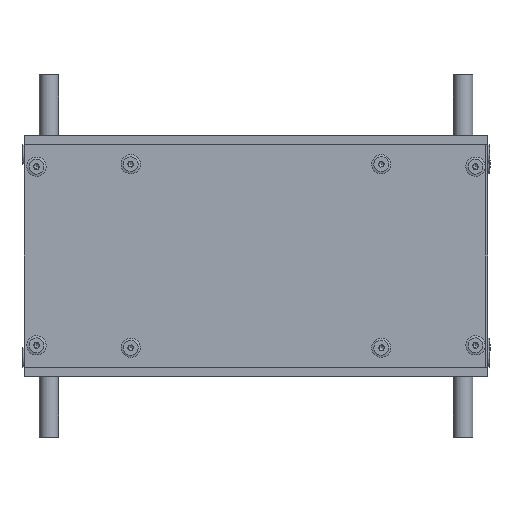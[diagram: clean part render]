
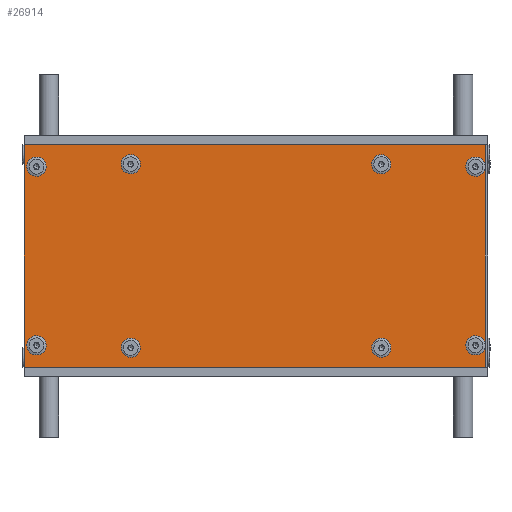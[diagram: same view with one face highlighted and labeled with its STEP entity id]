
A CAD part, front view. The second image highlights one B-rep face of the part: STEP entity #26914.
In plain terms, the highlighted planar face has unit normal (0, -1, 0) as drawn and (0, 0, -1) by its records, which use the part's own axes.
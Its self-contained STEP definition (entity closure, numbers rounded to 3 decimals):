
#2089=CIRCLE('',#29417,1.);
#2090=CIRCLE('',#29418,1.);
#2091=CIRCLE('',#29419,1.);
#2092=CIRCLE('',#29420,1.);
#2093=CIRCLE('',#29421,1.);
#2094=CIRCLE('',#29422,1.);
#2095=CIRCLE('',#29423,1.);
#2096=CIRCLE('',#29424,1.);
#7829=ORIENTED_EDGE('',*,*,#11811,.F.);
#7830=ORIENTED_EDGE('',*,*,#11812,.F.);
#7831=ORIENTED_EDGE('',*,*,#11813,.F.);
#7832=ORIENTED_EDGE('',*,*,#11814,.F.);
#7833=ORIENTED_EDGE('',*,*,#11815,.F.);
#7834=ORIENTED_EDGE('',*,*,#11816,.F.);
#7835=ORIENTED_EDGE('',*,*,#11817,.F.);
#7836=ORIENTED_EDGE('',*,*,#11818,.F.);
#7837=ORIENTED_EDGE('',*,*,#11819,.F.);
#7838=ORIENTED_EDGE('',*,*,#11820,.F.);
#7839=ORIENTED_EDGE('',*,*,#11821,.F.);
#7840=ORIENTED_EDGE('',*,*,#11822,.F.);
#11811=EDGE_CURVE('',#14338,#14339,#16458,.T.);
#11812=EDGE_CURVE('',#14340,#14338,#16459,.T.);
#11813=EDGE_CURVE('',#14341,#14340,#16460,.T.);
#11814=EDGE_CURVE('',#14339,#14341,#16461,.T.);
#11815=EDGE_CURVE('',#14342,#14342,#2089,.F.);
#11816=EDGE_CURVE('',#14343,#14343,#2090,.F.);
#11817=EDGE_CURVE('',#14344,#14344,#2091,.F.);
#11818=EDGE_CURVE('',#14345,#14345,#2092,.F.);
#11819=EDGE_CURVE('',#14346,#14346,#2093,.F.);
#11820=EDGE_CURVE('',#14347,#14347,#2094,.F.);
#11821=EDGE_CURVE('',#14348,#14348,#2095,.F.);
#11822=EDGE_CURVE('',#14349,#14349,#2096,.F.);
#14338=VERTEX_POINT('',#44321);
#14339=VERTEX_POINT('',#44322);
#14340=VERTEX_POINT('',#44324);
#14341=VERTEX_POINT('',#44326);
#14342=VERTEX_POINT('',#44329);
#14343=VERTEX_POINT('',#44331);
#14344=VERTEX_POINT('',#44333);
#14345=VERTEX_POINT('',#44335);
#14346=VERTEX_POINT('',#44337);
#14347=VERTEX_POINT('',#44339);
#14348=VERTEX_POINT('',#44341);
#14349=VERTEX_POINT('',#44343);
#16458=LINE('',#44320,#18422);
#16459=LINE('',#44323,#18423);
#16460=LINE('',#44325,#18424);
#16461=LINE('',#44327,#18425);
#18422=VECTOR('',#36092,1000.);
#18423=VECTOR('',#36093,1000.);
#18424=VECTOR('',#36094,1000.);
#18425=VECTOR('',#36095,1000.);
#20372=EDGE_LOOP('',(#7829,#7830,#7831,#7832));
#20373=EDGE_LOOP('',(#7833));
#20374=EDGE_LOOP('',(#7834));
#20375=EDGE_LOOP('',(#7835));
#20376=EDGE_LOOP('',(#7836));
#20377=EDGE_LOOP('',(#7837));
#20378=EDGE_LOOP('',(#7838));
#20379=EDGE_LOOP('',(#7839));
#20380=EDGE_LOOP('',(#7840));
#22433=FACE_BOUND('',#20372,.T.);
#22434=FACE_BOUND('',#20373,.T.);
#22435=FACE_BOUND('',#20374,.T.);
#22436=FACE_BOUND('',#20375,.T.);
#22437=FACE_BOUND('',#20376,.T.);
#22438=FACE_BOUND('',#20377,.T.);
#22439=FACE_BOUND('',#20378,.T.);
#22440=FACE_BOUND('',#20379,.T.);
#22441=FACE_BOUND('',#20380,.T.);
#23465=PLANE('',#29416);
#26914=ADVANCED_FACE('',(#22433,#22434,#22435,#22436,#22437,#22438,#22439,
#22440,#22441),#23465,.F.);
#29416=AXIS2_PLACEMENT_3D('',#44319,#36090,#36091);
#29417=AXIS2_PLACEMENT_3D('',#44328,#36096,#36097);
#29418=AXIS2_PLACEMENT_3D('',#44330,#36098,#36099);
#29419=AXIS2_PLACEMENT_3D('',#44332,#36100,#36101);
#29420=AXIS2_PLACEMENT_3D('',#44334,#36102,#36103);
#29421=AXIS2_PLACEMENT_3D('',#44336,#36104,#36105);
#29422=AXIS2_PLACEMENT_3D('',#44338,#36106,#36107);
#29423=AXIS2_PLACEMENT_3D('',#44340,#36108,#36109);
#29424=AXIS2_PLACEMENT_3D('',#44342,#36110,#36111);
#36090=DIRECTION('',(0.,0.,1.));
#36091=DIRECTION('',(1.,0.,0.));
#36092=DIRECTION('',(-1.,0.,0.));
#36093=DIRECTION('',(0.,1.,0.));
#36094=DIRECTION('',(1.,0.,0.));
#36095=DIRECTION('',(0.,-1.,0.));
#36096=DIRECTION('',(0.,0.,1.));
#36097=DIRECTION('',(1.,0.,0.));
#36098=DIRECTION('',(0.,0.,1.));
#36099=DIRECTION('',(1.,0.,0.));
#36100=DIRECTION('',(0.,0.,1.));
#36101=DIRECTION('',(1.,0.,0.));
#36102=DIRECTION('',(0.,0.,1.));
#36103=DIRECTION('',(1.,0.,0.));
#36104=DIRECTION('',(0.,0.,1.));
#36105=DIRECTION('',(1.,0.,0.));
#36106=DIRECTION('',(0.,0.,1.));
#36107=DIRECTION('',(1.,0.,0.));
#36108=DIRECTION('',(0.,0.,1.));
#36109=DIRECTION('',(1.,0.,0.));
#36110=DIRECTION('',(0.,0.,1.));
#36111=DIRECTION('',(1.,0.,0.));
#44319=CARTESIAN_POINT('',(0.,0.,0.));
#44320=CARTESIAN_POINT('',(95.39,46.,0.));
#44321=CARTESIAN_POINT('',(95.39,46.,0.));
#44322=CARTESIAN_POINT('',(0.,46.,0.));
#44323=CARTESIAN_POINT('',(95.39,0.,0.));
#44324=CARTESIAN_POINT('',(95.39,0.,0.));
#44325=CARTESIAN_POINT('',(0.,0.,0.));
#44326=CARTESIAN_POINT('',(0.,0.,0.));
#44327=CARTESIAN_POINT('',(0.,46.,0.));
#44328=CARTESIAN_POINT('',(73.89,4.,0.));
#44329=CARTESIAN_POINT('',(74.89,4.,0.));
#44330=CARTESIAN_POINT('',(22.,4.,0.));
#44331=CARTESIAN_POINT('',(23.,4.,0.));
#44332=CARTESIAN_POINT('',(2.5,4.5,0.));
#44333=CARTESIAN_POINT('',(3.5,4.5,0.));
#44334=CARTESIAN_POINT('',(93.39,41.5,0.));
#44335=CARTESIAN_POINT('',(94.39,41.5,0.));
#44336=CARTESIAN_POINT('',(93.39,4.5,0.));
#44337=CARTESIAN_POINT('',(94.39,4.5,0.));
#44338=CARTESIAN_POINT('',(2.5,41.5,0.));
#44339=CARTESIAN_POINT('',(3.5,41.5,0.));
#44340=CARTESIAN_POINT('',(73.89,42.,0.));
#44341=CARTESIAN_POINT('',(74.89,42.,0.));
#44342=CARTESIAN_POINT('',(22.,42.,0.));
#44343=CARTESIAN_POINT('',(23.,42.,0.));
